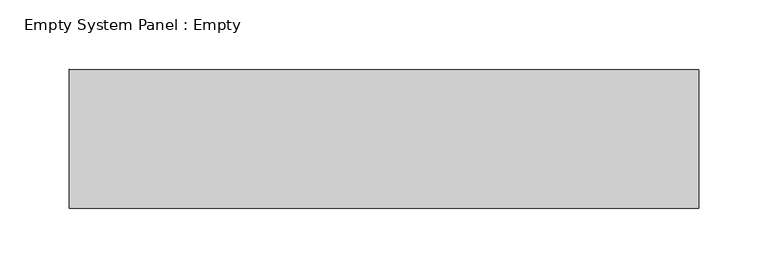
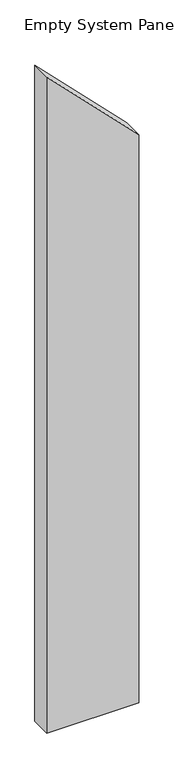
"""IFC4 building model written with IfcOpenShell, lengths in millimetres: plate geometry, Empty System Panel : Empty."""

from ifc_helpers import new_model, si_unit, frame, origin, place, context, project, spatial, polyline, outline, extrude, source, transform, mapped, element, save


def empty_system_panel_empty_6cc5970f(model_context):
    return source(origin(), model_context, "Body", "SweptSolid", [
        extrude(outline(polyline([(0.0, -226.4404253), (0.0, 226.4404253), (2953.7073947, 226.4404253), (3411.6548141, -226.4404253), (0.0, -226.4404253)])), frame((0.0, -50.0, 0.0), z_axis=(0.0, 1.0, 0.0), x_axis=(0.0, 0.0, 1.0)), (0.0, 0.0, 1.0), 100.0),
    ])


if __name__ == "__main__":
    model = new_model("IFC4")
    model_context = context("Model", 3, world=origin())
    ifc_project = project(units=[si_unit("LENGTHUNIT", "METRE", prefix="MILLI")], contexts=[model_context])
    site = spatial("IfcSite", under=ifc_project)
    building = spatial("IfcBuilding", under=site)
    placement = place(None, origin())
    empty_system_panel_empty_shape = empty_system_panel_empty_6cc5970f(model_context)
    element("IfcPlate", 1, ObjectType="Empty System Panel : Empty", at=placement, inside=building, context=model_context, shape_type="MappedRepresentation", body=[
        mapped(empty_system_panel_empty_shape, transform((0.0, 0.0, 0.0), x_axis=(1.0, 0.0, 0.0), y_axis=(0.0, 1.0, 0.0), z_axis=(0.0, 0.0, 1.0))),
    ])
    save(model, "model.ifc")
